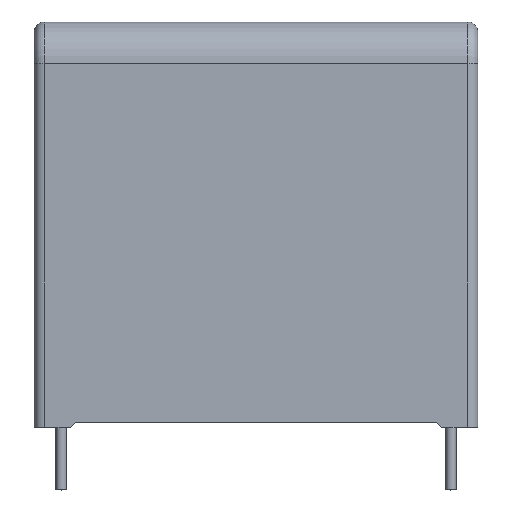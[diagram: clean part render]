
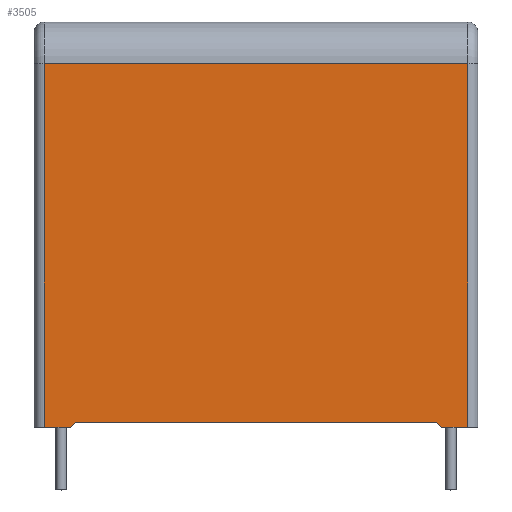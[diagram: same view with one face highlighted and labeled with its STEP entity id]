
A CAD part, top view. The second image highlights one B-rep face of the part: STEP entity #3505.
In plain terms, the highlighted planar face has unit normal (0, 0, 1).
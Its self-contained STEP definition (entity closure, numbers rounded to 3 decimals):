
#120 = CARTESIAN_POINT ( 'NONE',  ( 20.35, 0., 11.1 ) ) ;
#137 = VERTEX_POINT ( 'NONE', #668 ) ;
#163 = CARTESIAN_POINT ( 'NONE',  ( 17.35, 0.5, 11.1 ) ) ;
#172 = LINE ( 'NONE', #4222, #1949 ) ;
#333 = CARTESIAN_POINT ( 'NONE',  ( -17.35, 0.5, 11.1 ) ) ;
#357 = VECTOR ( 'NONE', #702, 1000. ) ;
#367 = DIRECTION ( 'NONE',  ( -0.707, -0.707, 0. ) ) ;
#413 = VERTEX_POINT ( 'NONE', #4132 ) ;
#469 = VECTOR ( 'NONE', #1406, 1000. ) ;
#493 = CARTESIAN_POINT ( 'NONE',  ( -21.35, 39., 11.1 ) ) ;
#512 = ORIENTED_EDGE ( 'NONE', *, *, #2283, .F. ) ;
#517 = ORIENTED_EDGE ( 'NONE', *, *, #2289, .F. ) ;
#518 = ORIENTED_EDGE ( 'NONE', *, *, #2167, .T. ) ;
#537 = ORIENTED_EDGE ( 'NONE', *, *, #2300, .T. ) ;
#539 = ORIENTED_EDGE ( 'NONE', *, *, #2309, .T. ) ;
#543 = ORIENTED_EDGE ( 'NONE', *, *, #2310, .T. ) ;
#547 = ORIENTED_EDGE ( 'NONE', *, *, #2314, .T. ) ;
#555 = ORIENTED_EDGE ( 'NONE', *, *, #2325, .F. ) ;
#578 = VECTOR ( 'NONE', #3124, 1000. ) ;
#668 = CARTESIAN_POINT ( 'NONE',  ( 17.85, 0., 11.1 ) ) ;
#702 = DIRECTION ( 'NONE',  ( -1., 0., 0. ) ) ;
#838 = FACE_OUTER_BOUND ( 'NONE', #1591, .T. ) ;
#1194 = LINE ( 'NONE', #2810, #3029 ) ;
#1208 = CARTESIAN_POINT ( 'NONE',  ( -20.35, 0., 11.1 ) ) ;
#1211 = PLANE ( 'NONE',  #4295 ) ;
#1244 = VERTEX_POINT ( 'NONE', #2184 ) ;
#1306 = VECTOR ( 'NONE', #3485, 1000. ) ;
#1406 = DIRECTION ( 'NONE',  ( -0.707, 0.707, 0. ) ) ;
#1410 = LINE ( 'NONE', #2457, #357 ) ;
#1422 = CARTESIAN_POINT ( 'NONE',  ( -21.35, 0., 11.1 ) ) ;
#1433 = VERTEX_POINT ( 'NONE', #1208 ) ;
#1521 = LINE ( 'NONE', #333, #578 ) ;
#1550 = DIRECTION ( 'NONE',  ( -1., 0., 0. ) ) ;
#1591 = EDGE_LOOP ( 'NONE', ( #512, #517, #518, #537, #539, #543, #547, #555 ) ) ;
#1748 = CARTESIAN_POINT ( 'NONE',  ( 20.35, 39., 11.1 ) ) ;
#1763 = DIRECTION ( 'NONE',  ( 1., 0., 0. ) ) ;
#1949 = VECTOR ( 'NONE', #2313, 1000. ) ;
#2083 = CARTESIAN_POINT ( 'NONE',  ( -20.35, 35., 11.1 ) ) ;
#2091 = CARTESIAN_POINT ( 'NONE',  ( -20.35, 39., 11.1 ) ) ;
#2103 = VECTOR ( 'NONE', #1763, 1000. ) ;
#2167 = EDGE_CURVE ( 'NONE', #137, #3712, #172, .T. ) ;
#2184 = CARTESIAN_POINT ( 'NONE',  ( -17.35, 0.5, 11.1 ) ) ;
#2218 = LINE ( 'NONE', #2091, #1306 ) ;
#2283 = EDGE_CURVE ( 'NONE', #3227, #1244, #1521, .T. ) ;
#2289 = EDGE_CURVE ( 'NONE', #137, #3227, #4089, .T. ) ;
#2300 = EDGE_CURVE ( 'NONE', #3712, #2475, #2334, .T. ) ;
#2309 = EDGE_CURVE ( 'NONE', #2475, #2739, #1410, .T. ) ;
#2310 = EDGE_CURVE ( 'NONE', #2739, #1433, #2218, .T. ) ;
#2313 = DIRECTION ( 'NONE',  ( 1., 0., 0. ) ) ;
#2314 = EDGE_CURVE ( 'NONE', #1433, #413, #3929, .T. ) ;
#2325 = EDGE_CURVE ( 'NONE', #1244, #413, #1194, .T. ) ;
#2334 = LINE ( 'NONE', #1748, #3138 ) ;
#2457 = CARTESIAN_POINT ( 'NONE',  ( -21.35, 35., 11.1 ) ) ;
#2475 = VERTEX_POINT ( 'NONE', #3966 ) ;
#2739 = VERTEX_POINT ( 'NONE', #2083 ) ;
#2810 = CARTESIAN_POINT ( 'NONE',  ( -17.85, 0., 11.1 ) ) ;
#3029 = VECTOR ( 'NONE', #367, 1000. ) ;
#3124 = DIRECTION ( 'NONE',  ( -1., 0., 0. ) ) ;
#3138 = VECTOR ( 'NONE', #3472, 1000. ) ;
#3227 = VERTEX_POINT ( 'NONE', #163 ) ;
#3472 = DIRECTION ( 'NONE',  ( 0., 1., 0. ) ) ;
#3485 = DIRECTION ( 'NONE',  ( 0., -1., 0. ) ) ;
#3505 = ADVANCED_FACE ( 'NONE', ( #838 ), #1211, .F. ) ;
#3629 = DIRECTION ( 'NONE',  ( 0., 0., -1. ) ) ;
#3712 = VERTEX_POINT ( 'NONE', #120 ) ;
#3929 = LINE ( 'NONE', #1422, #2103 ) ;
#3966 = CARTESIAN_POINT ( 'NONE',  ( 20.35, 35., 11.1 ) ) ;
#4078 = CARTESIAN_POINT ( 'NONE',  ( 17.35, 0.5, 11.1 ) ) ;
#4089 = LINE ( 'NONE', #4078, #469 ) ;
#4132 = CARTESIAN_POINT ( 'NONE',  ( -17.85, 0., 11.1 ) ) ;
#4222 = CARTESIAN_POINT ( 'NONE',  ( -21.35, 0., 11.1 ) ) ;
#4295 = AXIS2_PLACEMENT_3D ( 'NONE', #493, #3629, #1550 ) ;
